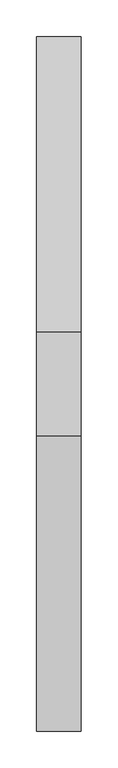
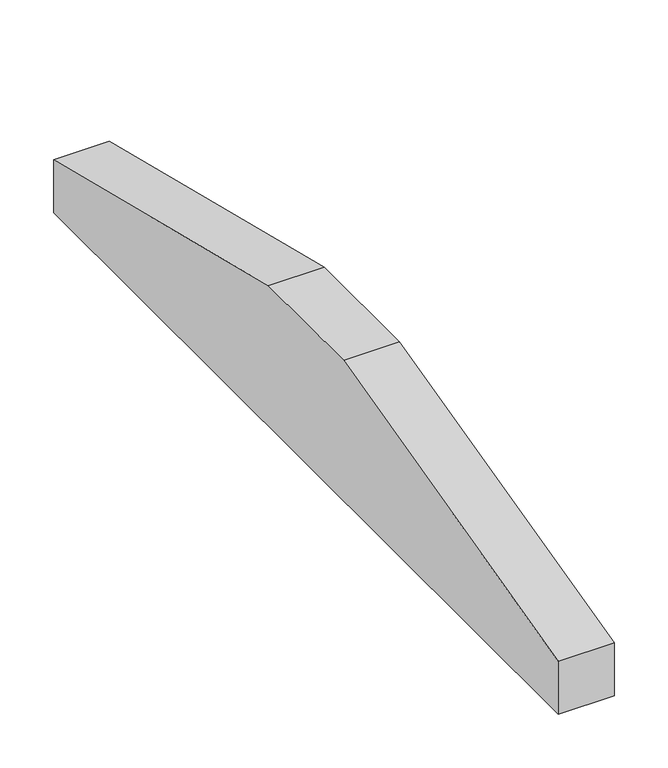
"""IFC4 building model written with IfcOpenShell, lengths in millimetres: proxy geometry, Modelos genéricos 162 : Modelos genéricos 144."""

from ifc_helpers import new_model, si_unit, frame, origin, place, context, project, spatial, polyline, outline, extrude, source, transform, mapped, element, save


def generic_models_3cbeaaff(model_context):
    return source(origin(), model_context, "Body", "SweptSolid", [
        extrude(outline(polyline([(2018.6238165, 4209.7515316), (2418.6238165, 4110.0203305), (2418.6238165, 4049.7515316), (1478.6238165, 4049.7515316), (1478.6238165, 4110.0203305), (1878.6238165, 4209.7515316), (2018.6238165, 4209.7515316)])), frame((51683.4472467, 0.0, 0.0), z_axis=(1.0, 0.0, 0.0), x_axis=(0.0, 1.0, 0.0)), (0.0, 0.0, 1.0), 60.0),
    ])


if __name__ == "__main__":
    model = new_model("IFC4")
    model_context = context("Model", 3, world=origin())
    ifc_project = project(units=[si_unit("LENGTHUNIT", "METRE", prefix="MILLI")], contexts=[model_context])
    site = spatial("IfcSite", under=ifc_project)
    building = spatial("IfcBuilding", under=site)
    placement = place(None, origin())
    generic_models_shape = generic_models_3cbeaaff(model_context)
    element("IfcBuildingElementProxy", 1, Name="Modelos genéricos 162 : Modelos genéricos 144", ObjectType="Modelos genéricos 162 : Modelos genéricos 144", at=placement, inside=building, context=model_context, shape_type="MappedRepresentation", body=[
        mapped(generic_models_shape, transform((0.0, 0.0, 0.0), x_axis=(1.0, 0.0, 0.0), y_axis=(0.0, 1.0, 0.0), z_axis=(0.0, 0.0, 1.0))),
    ])
    save(model, "model.ifc")
